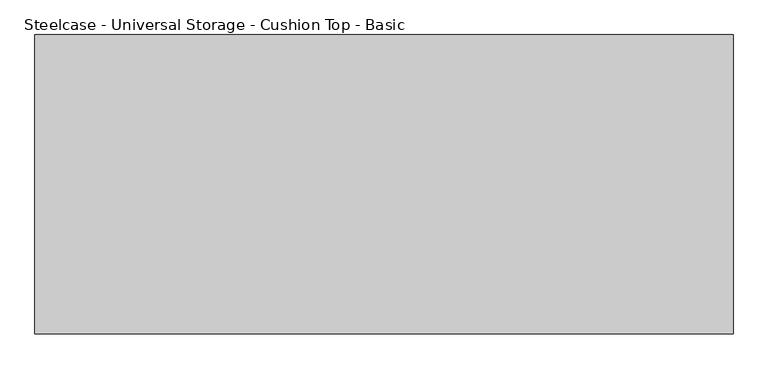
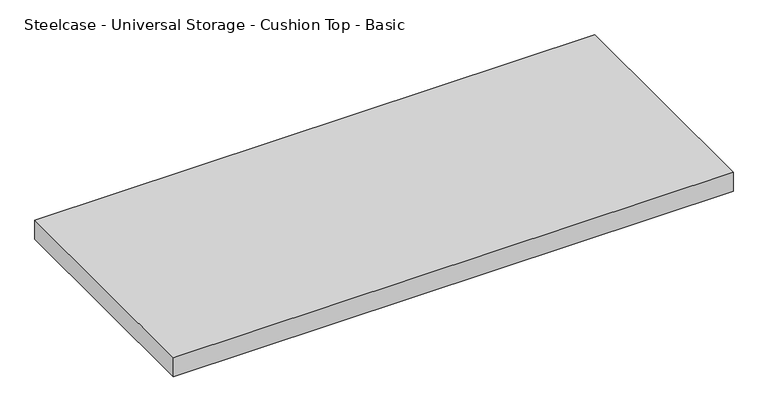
"""IFC4 building model written with IfcOpenShell, lengths in millimetres: furniture geometry, Steelcase - Universal Storage - Cushion Top - Basic : Lateral File - 18D x 42W."""

from ifc_helpers import new_model, si_unit, frame, origin, place, context, project, spatial, polyline, outline, extrude, source, transform, mapped, element, save


def steelcase_universal_storage_cushion_top_basic_6ddc0fcc(model_context):
    return source(origin(), model_context, "Body", "SweptSolid", [
        extrude(outline(polyline([(1066.8, 0.0), (1066.8, -457.2), (0.0, -457.2), (0.0, 0.0), (1066.8, 0.0)])), frame((0.0, 0.0, 533.4), z_axis=(0.0, 0.0, 1.0), x_axis=(1.0, 0.0, 0.0)), (0.0, 0.0, 1.0), 38.0999971),
    ])


if __name__ == "__main__":
    model = new_model("IFC4")
    model_context = context("Model", 3, world=origin())
    ifc_project = project(units=[si_unit("LENGTHUNIT", "METRE", prefix="MILLI")], contexts=[model_context])
    site = spatial("IfcSite", under=ifc_project)
    building = spatial("IfcBuilding", under=site)
    placement = place(None, origin())
    steelcase_universal_storage_cushion_top_basic_shape = steelcase_universal_storage_cushion_top_basic_6ddc0fcc(model_context)
    element("IfcFurniture", 1, ObjectType="Steelcase - Universal Storage - Cushion Top - Basic : Lateral File - 18D x 42W", at=placement, inside=building, context=model_context, shape_type="MappedRepresentation", body=[
        mapped(steelcase_universal_storage_cushion_top_basic_shape, transform((0.0, 0.0, 0.0), x_axis=(1.0, 0.0, 0.0), y_axis=(0.0, 1.0, 0.0), z_axis=(0.0, 0.0, 1.0))),
    ])
    save(model, "model.ifc")
